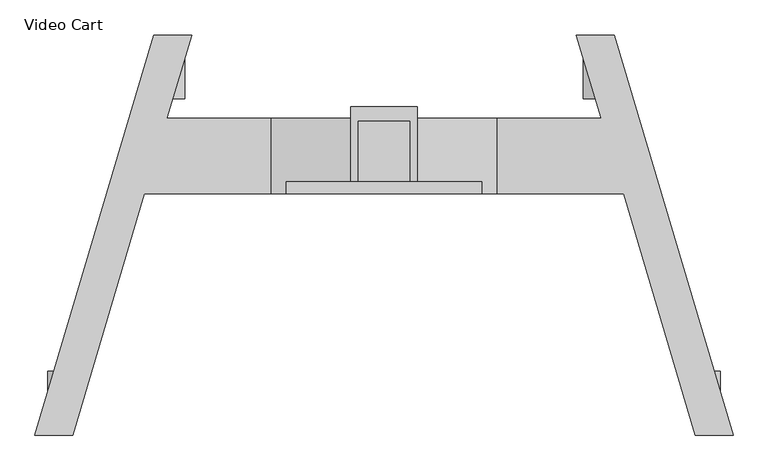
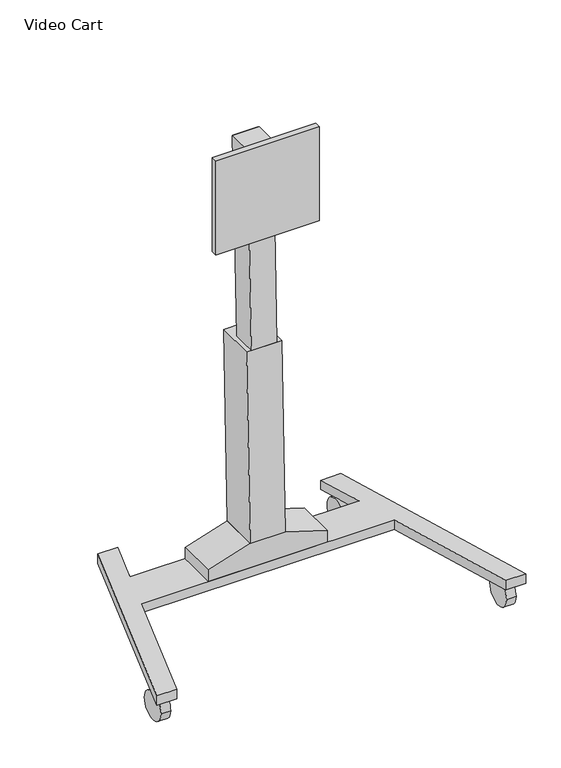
"""IFC4 building model written with IfcOpenShell, lengths in millimetres: proxy geometry, Flat_Panel_Mount-Chief-Floor_Support-Large_Capacity : Video Cart."""

import ifcopenshell
import ifcopenshell.guid

model = None  # the IFC model being written
_history = None  # IfcOwnerHistory: only IFC2X3 demands one
_inside = {}  # id of a spatial element -> (the spatial element, [elements in it])
_under = {}  # id of a project, library or spatial element -> (it, [spatial elements below it])
_declared = {}  # id of a project -> (the project, [libraries it declares])
_typed = {}  # id of a type object -> (the type object, [elements of that type])
_made_of = {}  # id of a material, layer set ... -> (it, [elements and type objects made of it])


def new_model(schema):
    """Start an empty IFC model of exactly this schema.

    Asked for "IFC4X3", IfcOpenShell would pick the latest addendum, in which some entities
    have other attributes; the version numbers below select the first issue.
    IFC2X3 requires an IfcOwnerHistory on every rooted entity: one is made here for all.
    """
    global model, _history
    if schema == "IFC4X3":
        model = ifcopenshell.file(schema_version=(4, 3, 0, 0))
    else:
        model = ifcopenshell.file(schema=schema)
    _inside.clear()
    _under.clear()
    _declared.clear()
    _typed.clear()
    _made_of.clear()
    _history = None
    if model.schema == "IFC2X3":
        org = make("IfcOrganization", Name="unknown")
        user = make(
            "IfcPersonAndOrganization",
            ThePerson=make("IfcPerson", FamilyName="unknown"),
            TheOrganization=org,
        )
        app = make(
            "IfcApplication",
            ApplicationDeveloper=org,
            Version="unknown",
            ApplicationFullName="unknown",
            ApplicationIdentifier="unknown",
        )
        _history = make(
            "IfcOwnerHistory",
            OwningUser=user,
            OwningApplication=app,
            ChangeAction="ADDED",
            CreationDate=0,
        )
    return model


def make(cls, **values):
    """One entity of the class cls with the attributes given. An attribute that is None is left unset."""
    return model.create_entity(
        cls, **{name: value for name, value in values.items() if value is not None}
    )


def rooted(cls, **values):
    """An entity with a GlobalId (a new one), such as an element, a storey or a relation."""
    return make(cls, GlobalId=ifcopenshell.guid.new(), OwnerHistory=_history, **values)


def si_unit(unit_type, name, prefix=None):
    """IfcSIUnit, for example si_unit("LENGTHUNIT", "METRE", prefix="MILLI")."""
    return make("IfcSIUnit", UnitType=unit_type, Prefix=prefix, Name=name)


def assignment(units):
    """IfcUnitAssignment: the units of a project."""
    return None if units is None else make("IfcUnitAssignment", Units=units)


def point(xyz):
    """IfcCartesianPoint."""
    return None if xyz is None else make("IfcCartesianPoint", Coordinates=xyz)


def direction(xyz):
    """IfcDirection."""
    return None if xyz is None else make("IfcDirection", DirectionRatios=xyz)


def frame(location, z_axis=None, x_axis=None):
    """IfcAxis2Placement3D, a coordinate frame: its origin and axes. An axis left out is left unset."""
    return make(
        "IfcAxis2Placement3D",
        Location=point(location),
        Axis=direction(z_axis),
        RefDirection=direction(x_axis),
    )


def frame_2d(location, x_axis=None):
    """IfcAxis2Placement2D, a coordinate frame in the plane: its origin and x axis."""
    return make(
        "IfcAxis2Placement2D", Location=point(location), RefDirection=direction(x_axis)
    )


def origin():
    """The frame at (0, 0, 0) with its axes left unset."""
    return frame((0.0, 0.0, 0.0))


def place(relative_to, where):
    """IfcLocalPlacement: puts the frame where relative to a parent placement (None: the world)."""
    return make(
        "IfcLocalPlacement", PlacementRelTo=relative_to, RelativePlacement=where
    )


def context(
    kind, dimensions, precision=None, world=None, true_north=None, identifier=None
):
    """IfcGeometricRepresentationContext, for example the 3D "Model" context."""
    return make(
        "IfcGeometricRepresentationContext",
        ContextIdentifier=identifier,
        ContextType=kind,
        CoordinateSpaceDimension=dimensions,
        Precision=precision,
        WorldCoordinateSystem=world,
        TrueNorth=true_north,
    )


def project(units=None, contexts=None):
    """IfcProject with its units and contexts."""
    return rooted(
        "IfcProject",
        Name="project",
        RepresentationContexts=contexts,
        UnitsInContext=assignment(units),
    )


def spatial(cls, under=None, at=None, **own):
    """A site, building, storey or space (cls), placed at a placement, below another one or the project."""
    s = rooted(cls, ObjectPlacement=at, **own)
    if under is not None:
        _under.setdefault(under.id(), (under, []))[1].append(s)
    return s


def polyline(points):
    """IfcPolyline through the points."""
    return make("IfcPolyline", Points=[point(p) for p in points])


def circle_curve(where, radius):
    """IfcCircle in the frame where."""
    return make("IfcCircle", Position=where, Radius=radius)


def trimmed(basis, trim1, trim2, sense, master):
    """IfcTrimmedCurve: the piece of a basis curve between two trims."""
    return make(
        "IfcTrimmedCurve",
        BasisCurve=basis,
        Trim1=trim1,
        Trim2=trim2,
        SenseAgreement=sense,
        MasterRepresentation=master,
    )


def segment(curve, same_sense, transition):
    """IfcCompositeCurveSegment."""
    return make(
        "IfcCompositeCurveSegment",
        Transition=transition,
        SameSense=same_sense,
        ParentCurve=curve,
    )


def composite_curve(segments, self_intersect=None):
    """IfcCompositeCurve: segments joined end to end."""
    return make("IfcCompositeCurve", Segments=segments, SelfIntersect=self_intersect)


def outline(outer, holes=None, kind="AREA"):
    """IfcArbitraryClosedProfileDef: a profile drawn as a closed curve; with holes, ...WithVoids."""
    if holes is None:
        return make("IfcArbitraryClosedProfileDef", ProfileType=kind, OuterCurve=outer)
    return make(
        "IfcArbitraryProfileDefWithVoids",
        ProfileType=kind,
        OuterCurve=outer,
        InnerCurves=holes,
    )


def extrude(swept, where, along, depth):
    """IfcExtrudedAreaSolid: the profile swept, set in the frame where, extruded along a direction by depth."""
    return make(
        "IfcExtrudedAreaSolid",
        SweptArea=swept,
        Position=where,
        ExtrudedDirection=direction(along),
        Depth=depth,
    )


def shape(context_of_items, identifier, shape_type, items):
    """IfcShapeRepresentation: the items that make up one representation, for example the "Body"."""
    return make(
        "IfcShapeRepresentation",
        ContextOfItems=context_of_items,
        RepresentationIdentifier=identifier,
        RepresentationType=shape_type,
        Items=items,
    )


def source(mapping_origin, context_of_items, identifier, shape_type, items):
    """IfcRepresentationMap: a shape defined once, which mapped items show again and again."""
    return make(
        "IfcRepresentationMap",
        MappingOrigin=mapping_origin,
        MappedRepresentation=shape(context_of_items, identifier, shape_type, items),
    )


def transform(
    local_origin,
    x_axis=None,
    y_axis=None,
    z_axis=None,
    scale=None,
    scale2=None,
    scale3=None,
    uniform=True,
):
    """IfcCartesianTransformationOperator3D, or its non-uniform kind. x_axis, y_axis, z_axis: its Axis1, 2, 3."""
    if uniform:
        return make(
            "IfcCartesianTransformationOperator3D",
            Axis1=direction(x_axis),
            Axis2=direction(y_axis),
            LocalOrigin=point(local_origin),
            Scale=scale,
            Axis3=direction(z_axis),
        )
    return make(
        "IfcCartesianTransformationOperator3DnonUniform",
        Axis1=direction(x_axis),
        Axis2=direction(y_axis),
        LocalOrigin=point(local_origin),
        Scale=scale,
        Axis3=direction(z_axis),
        Scale2=scale2,
        Scale3=scale3,
    )


def mapped(mapping_source, mapping_target):
    """IfcMappedItem: shows the shape of a source again, moved by a transform."""
    return make(
        "IfcMappedItem", MappingSource=mapping_source, MappingTarget=mapping_target
    )


def made_of(thing, what):
    """Note that an element or type object is made of a material, layer set ...; save() writes the relation."""
    if what is not None:
        _made_of.setdefault(what.id(), (what, []))[1].append(thing)
    return thing


def element(
    cls,
    number,
    at=None,
    inside=None,
    cuts=None,
    type_object=None,
    material=None,
    context=None,
    identifier="Body",
    shape_type=None,
    held_by="IfcProductDefinitionShape",
    body=None,
    shapes=None,
    **own,
):
    """One element of the class cls, such as IfcWall. Its Tag is "e" and its number.

    at: its placement. inside: the storey or other place that contains it. cuts: it is an
    opening in that element (IfcRelVoidsElement). A single representation is given by context,
    identifier, shape_type and body (its items); several are given by shapes. held_by: the class
    of the entity that holds the representations. save() writes the other relations.
    """
    e = rooted(cls, Tag="e%d" % number, ObjectPlacement=at, **own)
    if body is not None:
        shapes = [shape(context, identifier, shape_type, body)]
    if shapes is not None:
        e.Representation = make(held_by, Representations=shapes)
    if inside is not None:
        _inside.setdefault(inside.id(), (inside, []))[1].append(e)
    if cuts is not None:
        rooted(
            "IfcRelVoidsElement", RelatingBuildingElement=cuts, RelatedOpeningElement=e
        )
    if type_object is not None:
        _typed.setdefault(type_object.id(), (type_object, []))[1].append(e)
    return made_of(e, material)


def aggregate(whole, parts):
    """IfcRelAggregates: a whole, such as a stair, and the parts it consists of."""
    return rooted("IfcRelAggregates", RelatingObject=whole, RelatedObjects=parts)


def save(model, path):
    """Write the relations noted so far, then the file.

    IfcRelAggregates (storeys below a building ...), IfcRelContainedInSpatialStructure (elements
    in a storey), IfcRelDefinesByType, IfcRelAssociatesMaterial and IfcRelDeclares: one each for
    every whole, place, type object, material and project.
    """
    for whole, parts in _under.values():
        aggregate(whole, parts)
    for where, things in _inside.values():
        rooted(
            "IfcRelContainedInSpatialStructure",
            RelatedElements=things,
            RelatingStructure=where,
        )
    for kind, things in _typed.values():
        rooted("IfcRelDefinesByType", RelatedObjects=things, RelatingType=kind)
    for what, things in _made_of.values():
        rooted("IfcRelAssociatesMaterial", RelatedObjects=things, RelatingMaterial=what)
    for by, libraries in _declared.values():
        rooted("IfcRelDeclares", RelatingContext=by, RelatedDefinitions=libraries)
    model.write(path)


def video_cart_6cb45a0d(model_context):
    return source(origin(), model_context, "Body", "SweptSolid", [
        extrude(outline(composite_curve([segment(trimmed(circle_curve(frame_2d((154.197, 58.039)), 58.039), [point((212.236, 58.039))], [point((96.158, 58.039))], False, "CARTESIAN"), True, "CONTINUOUS"), segment(trimmed(circle_curve(frame_2d((154.197, 58.039)), 58.039), [point((96.158, 58.039))], [point((212.236, 58.039))], False, "CARTESIAN"), True, "CONTINUOUS")], self_intersect=False)), frame((420.1422584, 0.0, 0.0), z_axis=(1.0, 0.0, 0.0), x_axis=(0.0, 1.0, 0.0)), (0.0, 0.0, 1.0), 38.1),
        extrude(outline(composite_curve([segment(trimmed(circle_curve(frame_2d((154.197, 58.039)), 58.039), [point((96.158, 58.039))], [point((212.236, 58.039))], False, "CARTESIAN"), True, "CONTINUOUS"), segment(trimmed(circle_curve(frame_2d((154.197, 58.039)), 58.039), [point((212.236, 58.039))], [point((96.158, 58.039))], False, "CARTESIAN"), True, "CONTINUOUS")], self_intersect=False)), frame((-458.2422584, 0.0, 0.0), z_axis=(1.0, 0.0, 0.0), x_axis=(0.0, 1.0, 0.0)), (0.0, 0.0, 1.0), 38.1),
        extrude(outline(composite_curve([segment(trimmed(circle_curve(frame_2d((-537.445, 58.039)), 58.039), [point((-595.484, 58.039))], [point((-479.406, 58.039))], False, "CARTESIAN"), True, "CONTINUOUS"), segment(trimmed(circle_curve(frame_2d((-537.445, 58.039)), 58.039), [point((-479.406, 58.039))], [point((-595.484, 58.039))], False, "CARTESIAN"), True, "CONTINUOUS")], self_intersect=False)), frame((671.070934, 0.0, 0.0), z_axis=(1.0, 0.0, 0.0), x_axis=(0.0, 1.0, 0.0)), (0.0, 0.0, 1.0), 38.1),
        extrude(outline(composite_curve([segment(trimmed(circle_curve(frame_2d((-537.445, 58.039)), 58.039), [point((-479.406, 58.039))], [point((-595.484, 58.039))], False, "CARTESIAN"), True, "CONTINUOUS"), segment(trimmed(circle_curve(frame_2d((-537.445, 58.039)), 58.039), [point((-595.484, 58.039))], [point((-479.406, 58.039))], False, "CARTESIAN"), True, "CONTINUOUS")], self_intersect=False)), frame((-709.170934, 0.0, 0.0), z_axis=(1.0, 0.0, 0.0), x_axis=(0.0, 1.0, 0.0)), (0.0, 0.0, 1.0), 38.1),
        extrude(outline(polyline([(-657.103868, -613.645), (-736.6, -613.645), (-485.6713244, 230.397), (-406.1751924, 230.397), (-458.505488, 54.375), (458.505488, 54.375), (406.1751924, 230.397), (485.6713244, 230.397), (736.6, -613.645), (657.103868, -613.645), (505.7009205, -104.375), (-505.7009205, -104.375), (-657.103868, -613.645)])), frame((0.0, 0.0, 116.078), z_axis=(0.0, 0.0, 1.0), x_axis=(1.0, 0.0, 0.0)), (0.0, 0.0, 1.0), 38.862),
        extrude(outline(polyline([(-79.7687, 1883.3338), (47.7786497, 1883.3338), (44.6300219, 1781.7338), (-57.018755, 1781.7338), (-79.7687, 1723.0338), (-79.7687, 1883.3338)])), frame((-53.975, 0.0, 0.0), z_axis=(1.0, 0.0, 0.0), x_axis=(0.0, 1.0, 0.0)), (0.0, 0.0, 1.0), 107.95),
        extrude(outline(polyline([(-206.4, -104.3813), (-206.4, -79.7687), (206.4, -79.7687), (206.4, -104.3813), (-206.4, -104.3813)])), frame((0.0, 0.0, 1524.6338), z_axis=(0.0, 0.0, 1.0), x_axis=(1.0, 0.0, 0.0)), (0.0, 0.0, 1.0), 396.8),
        extrude(outline(polyline([(-79.7687, 1050.94), (-53.8701273, 1883.3338), (47.7786497, 1883.3338), (21.880077, 1050.94), (-79.7687, 1050.94)])), frame((-50.8, 0.0, 0.0), z_axis=(1.0, 0.0, 0.0), x_axis=(0.0, 1.0, 0.0)), (0.0, 0.0, 1.0), 101.6),
        extrude(outline(polyline([(54.3813, 256.74), (-104.3813, 256.74), (-79.7687, 1050.94), (78.9939, 1050.94), (54.3813, 256.74)])), frame((-69.85, 0.0, 0.0), z_axis=(1.0, 0.0, 0.0), x_axis=(0.0, 1.0, 0.0)), (0.0, 0.0, 1.0), 139.7),
        extrude(outline(polyline([(154.94, 238.1504), (203.6372619, 238.1504), (256.74, 69.85), (256.74, -69.85), (203.6372619, -238.1504), (154.94, -238.1504), (154.94, 238.1504)])), frame((0.0, -104.3813, 0.0), z_axis=(0.0, 1.0, 0.0), x_axis=(0.0, 0.0, 1.0)), (0.0, 0.0, 1.0), 158.7626),
    ])


if __name__ == "__main__":
    model = new_model("IFC4")
    model_context = context("Model", 3, world=origin())
    ifc_project = project(units=[si_unit("LENGTHUNIT", "METRE", prefix="MILLI")], contexts=[model_context])
    site = spatial("IfcSite", under=ifc_project)
    building = spatial("IfcBuilding", under=site)
    placement = place(None, origin())
    video_cart_shape = video_cart_6cb45a0d(model_context)
    element("IfcBuildingElementProxy", 1, Name="Flat_Panel_Mount-Chief-Floor_Support-Large_Capacity : Video Cart", ObjectType="Flat_Panel_Mount-Chief-Floor_Support-Large_Capacity : Video Cart", at=placement, inside=building, context=model_context, shape_type="MappedRepresentation", body=[
        mapped(video_cart_shape, transform((0.0, 0.0, 0.0), x_axis=(1.0, 0.0, 0.0), y_axis=(0.0, 1.0, 0.0), z_axis=(0.0, 0.0, 1.0))),
    ])
    save(model, "model.ifc")
